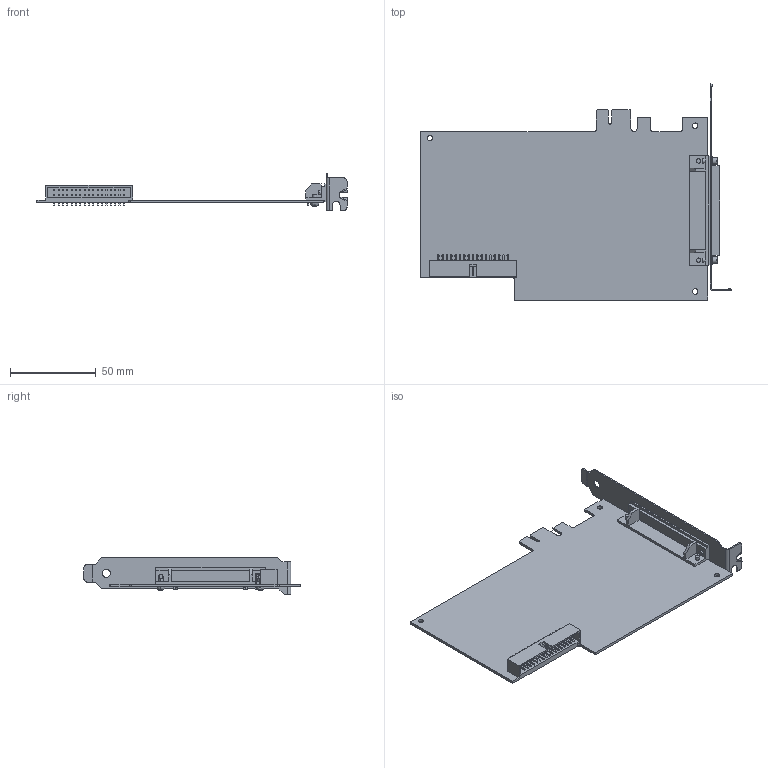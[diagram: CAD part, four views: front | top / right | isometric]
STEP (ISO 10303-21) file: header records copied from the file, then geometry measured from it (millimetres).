
FILE_DESCRIPTION((''),'2;1');
FILE_NAME('CU_PCIE-6612','2013-11-13T',('dgraves'),(''),'PRO/ENGINEER BY PARAMETRIC TECHNOLOGY CORPORATION, 2011490','PRO/ENGINEER BY PARAMETRIC TECHNOLOGY CORPORATION, 2011490','');
FILE_SCHEMA(('CONFIG_CONTROL_DESIGN'));
Length unit declared in the file: inch
Products named in the file (1): CU_PCIE-6612
Bounding box: 181.16 x 126.18 x 21.59 mm (x, y, z)
Volume: 32910 mm3; surface area: 44011.1 mm2
Topology: 1 solids, 1 shells, 1240 faces, 2986 edges, 1939 vertices
Faces by surface type: plane 735, cylinder 465, bspline 16, cone 16, sphere 8
Entity records: 37579 total; most frequent: CARTESIAN_POINT 7589, DIRECTION 6389, ORIENTED_EDGE 5956, EDGE_CURVE 2978, AXIS2_PLACEMENT_3D 2239, VERTEX_POINT 1977, VECTOR 1911, LINE 1911
